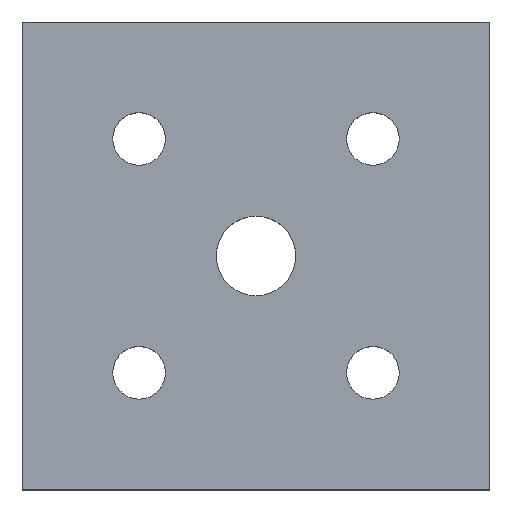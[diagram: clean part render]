
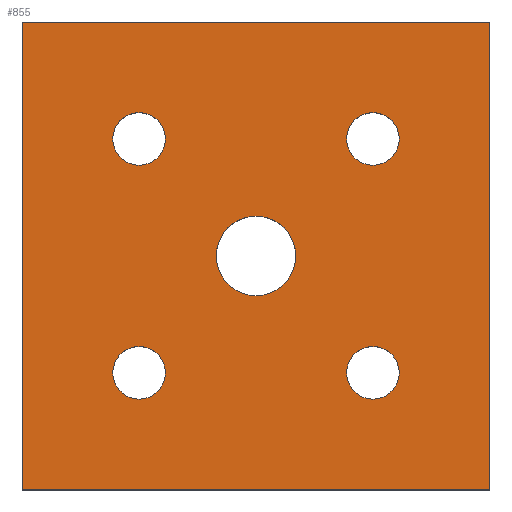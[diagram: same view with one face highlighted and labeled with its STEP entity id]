
A CAD part, top view. The second image highlights one B-rep face of the part: STEP entity #855.
In plain terms, the highlighted planar face has unit normal (0, 0, 1).
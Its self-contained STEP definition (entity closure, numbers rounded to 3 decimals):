
#2 = DIRECTION ( 'NONE',  ( 0., 0., -1. ) ) ;
#4 = FACE_BOUND ( 'NONE', #519, .T. ) ;
#5 = DIRECTION ( 'NONE',  ( 0., 0., -1. ) ) ;
#8 = EDGE_CURVE ( 'NONE', #434, #822, #483, .T. ) ;
#16 = ORIENTED_EDGE ( 'NONE', *, *, #652, .T. ) ;
#17 = CIRCLE ( 'NONE', #733, 2.25 ) ;
#18 = DIRECTION ( 'NONE',  ( 0., 0., -1. ) ) ;
#19 = ORIENTED_EDGE ( 'NONE', *, *, #573, .T. ) ;
#36 = DIRECTION ( 'NONE',  ( 0., 0., -1. ) ) ;
#37 = DIRECTION ( 'NONE',  ( 0., 0., -1. ) ) ;
#56 = AXIS2_PLACEMENT_3D ( 'NONE', #885, #18, #587 ) ;
#62 = ORIENTED_EDGE ( 'NONE', *, *, #160, .T. ) ;
#76 = CARTESIAN_POINT ( 'NONE',  ( -7.75, -10., 0. ) ) ;
#79 = CARTESIAN_POINT ( 'NONE',  ( 7.75, -10., 0. ) ) ;
#85 = FACE_BOUND ( 'NONE', #902, .T. ) ;
#88 = EDGE_LOOP ( 'NONE', ( #95, #19 ) ) ;
#95 = ORIENTED_EDGE ( 'NONE', *, *, #787, .T. ) ;
#103 = DIRECTION ( 'NONE',  ( -1., 0., 0. ) ) ;
#113 = AXIS2_PLACEMENT_3D ( 'NONE', #504, #788, #882 ) ;
#115 = VERTEX_POINT ( 'NONE', #123 ) ;
#119 = CARTESIAN_POINT ( 'NONE',  ( 20., 20., 0. ) ) ;
#123 = CARTESIAN_POINT ( 'NONE',  ( 7.75, 10., 0. ) ) ;
#127 = DIRECTION ( 'NONE',  ( 0., 0., -1. ) ) ;
#134 = AXIS2_PLACEMENT_3D ( 'NONE', #442, #2, #564 ) ;
#135 = VERTEX_POINT ( 'NONE', #334 ) ;
#139 = CARTESIAN_POINT ( 'NONE',  ( 0., 20., 0. ) ) ;
#151 = ORIENTED_EDGE ( 'NONE', *, *, #8, .T. ) ;
#157 = AXIS2_PLACEMENT_3D ( 'NONE', #779, #5, #297 ) ;
#160 = EDGE_CURVE ( 'NONE', #690, #515, #731, .T. ) ;
#165 = CIRCLE ( 'NONE', #688, 2.25 ) ;
#171 = EDGE_CURVE ( 'NONE', #601, #115, #17, .T. ) ;
#175 = AXIS2_PLACEMENT_3D ( 'NONE', #809, #317, #103 ) ;
#185 = EDGE_CURVE ( 'NONE', #653, #637, #301, .T. ) ;
#194 = CARTESIAN_POINT ( 'NONE',  ( -7.75, 10., 0. ) ) ;
#196 = CARTESIAN_POINT ( 'NONE',  ( 0., 0., 0. ) ) ;
#197 = FACE_BOUND ( 'NONE', #417, .T. ) ;
#203 = CARTESIAN_POINT ( 'NONE',  ( -20., 0., 0. ) ) ;
#205 = EDGE_CURVE ( 'NONE', #725, #840, #165, .T. ) ;
#206 = DIRECTION ( 'NONE',  ( -1., 0., 0. ) ) ;
#210 = CARTESIAN_POINT ( 'NONE',  ( 10., 10., 0. ) ) ;
#212 = LINE ( 'NONE', #824, #389 ) ;
#286 = VECTOR ( 'NONE', #354, 1000. ) ;
#292 = CIRCLE ( 'NONE', #113, 2.25 ) ;
#297 = DIRECTION ( 'NONE',  ( -1., 0., 0. ) ) ;
#301 = LINE ( 'NONE', #139, #286 ) ;
#314 = CIRCLE ( 'NONE', #134, 2.25 ) ;
#317 = DIRECTION ( 'NONE',  ( 0., 0., -1. ) ) ;
#318 = EDGE_CURVE ( 'NONE', #840, #725, #314, .T. ) ;
#323 = ORIENTED_EDGE ( 'NONE', *, *, #858, .T. ) ;
#328 = DIRECTION ( 'NONE',  ( 0., 1., 0. ) ) ;
#332 = CARTESIAN_POINT ( 'NONE',  ( 0., 0., 0. ) ) ;
#334 = CARTESIAN_POINT ( 'NONE',  ( 3.4, 0., 0. ) ) ;
#347 = CARTESIAN_POINT ( 'NONE',  ( -10., 10., 0. ) ) ;
#352 = VERTEX_POINT ( 'NONE', #79 ) ;
#354 = DIRECTION ( 'NONE',  ( -1., 0., 0. ) ) ;
#388 = PLANE ( 'NONE',  #756 ) ;
#389 = VECTOR ( 'NONE', #328, 1000. ) ;
#400 = CARTESIAN_POINT ( 'NONE',  ( -20., -20., 0. ) ) ;
#405 = DIRECTION ( 'NONE',  ( -1., 0., 0. ) ) ;
#415 = EDGE_CURVE ( 'NONE', #352, #740, #292, .T. ) ;
#417 = EDGE_LOOP ( 'NONE', ( #449, #431 ) ) ;
#423 = VECTOR ( 'NONE', #921, 1000. ) ;
#431 = ORIENTED_EDGE ( 'NONE', *, *, #171, .T. ) ;
#434 = VERTEX_POINT ( 'NONE', #658 ) ;
#442 = CARTESIAN_POINT ( 'NONE',  ( -10., 10., 0. ) ) ;
#444 = ORIENTED_EDGE ( 'NONE', *, *, #318, .T. ) ;
#448 = CIRCLE ( 'NONE', #869, 2.25 ) ;
#449 = ORIENTED_EDGE ( 'NONE', *, *, #490, .T. ) ;
#450 = CARTESIAN_POINT ( 'NONE',  ( -3.4, 0., 0. ) ) ;
#451 = EDGE_LOOP ( 'NONE', ( #151, #16 ) ) ;
#464 = FACE_BOUND ( 'NONE', #451, .T. ) ;
#468 = DIRECTION ( 'NONE',  ( -1., 0., 0. ) ) ;
#474 = ORIENTED_EDGE ( 'NONE', *, *, #638, .T. ) ;
#482 = ORIENTED_EDGE ( 'NONE', *, *, #205, .T. ) ;
#483 = CIRCLE ( 'NONE', #56, 2.25 ) ;
#486 = CIRCLE ( 'NONE', #157, 3.4 ) ;
#490 = EDGE_CURVE ( 'NONE', #115, #601, #917, .T. ) ;
#496 = VECTOR ( 'NONE', #752, 1000. ) ;
#504 = CARTESIAN_POINT ( 'NONE',  ( 10., -10., 0. ) ) ;
#515 = VERTEX_POINT ( 'NONE', #884 ) ;
#519 = EDGE_LOOP ( 'NONE', ( #444, #482 ) ) ;
#521 = FACE_BOUND ( 'NONE', #88, .T. ) ;
#531 = CIRCLE ( 'NONE', #909, 2.25 ) ;
#532 = CARTESIAN_POINT ( 'NONE',  ( -10., -10., 0. ) ) ;
#557 = FACE_OUTER_BOUND ( 'NONE', #699, .T. ) ;
#564 = DIRECTION ( 'NONE',  ( -1., 0., 0. ) ) ;
#570 = VERTEX_POINT ( 'NONE', #450 ) ;
#573 = EDGE_CURVE ( 'NONE', #135, #570, #642, .T. ) ;
#587 = DIRECTION ( 'NONE',  ( -1., 0., 0. ) ) ;
#595 = CARTESIAN_POINT ( 'NONE',  ( -20., 20., 0. ) ) ;
#596 = DIRECTION ( 'NONE',  ( -1., 0., 0. ) ) ;
#601 = VERTEX_POINT ( 'NONE', #644 ) ;
#617 = CARTESIAN_POINT ( 'NONE',  ( 12.25, -10., 0. ) ) ;
#618 = CARTESIAN_POINT ( 'NONE',  ( 0., -20., 0. ) ) ;
#620 = LINE ( 'NONE', #203, #423 ) ;
#624 = ORIENTED_EDGE ( 'NONE', *, *, #839, .T. ) ;
#634 = DIRECTION ( 'NONE',  ( 0., 0., 1. ) ) ;
#637 = VERTEX_POINT ( 'NONE', #595 ) ;
#638 = EDGE_CURVE ( 'NONE', #740, #352, #448, .T. ) ;
#642 = CIRCLE ( 'NONE', #879, 3.4 ) ;
#644 = CARTESIAN_POINT ( 'NONE',  ( 12.25, 10., 0. ) ) ;
#652 = EDGE_CURVE ( 'NONE', #822, #434, #531, .T. ) ;
#653 = VERTEX_POINT ( 'NONE', #119 ) ;
#658 = CARTESIAN_POINT ( 'NONE',  ( -12.25, -10., 0. ) ) ;
#675 = CARTESIAN_POINT ( 'NONE',  ( -12.25, 10., 0. ) ) ;
#688 = AXIS2_PLACEMENT_3D ( 'NONE', #347, #127, #206 ) ;
#689 = DIRECTION ( 'NONE',  ( -1., 0., 0. ) ) ;
#690 = VERTEX_POINT ( 'NONE', #400 ) ;
#699 = EDGE_LOOP ( 'NONE', ( #624, #741, #323, #62 ) ) ;
#725 = VERTEX_POINT ( 'NONE', #194 ) ;
#731 = LINE ( 'NONE', #618, #496 ) ;
#733 = AXIS2_PLACEMENT_3D ( 'NONE', #210, #911, #689 ) ;
#740 = VERTEX_POINT ( 'NONE', #617 ) ;
#741 = ORIENTED_EDGE ( 'NONE', *, *, #185, .T. ) ;
#742 = DIRECTION ( 'NONE',  ( 1., 0., 0. ) ) ;
#752 = DIRECTION ( 'NONE',  ( 1., 0., 0. ) ) ;
#756 = AXIS2_PLACEMENT_3D ( 'NONE', #196, #634, #742 ) ;
#779 = CARTESIAN_POINT ( 'NONE',  ( 0., 0., 0. ) ) ;
#787 = EDGE_CURVE ( 'NONE', #570, #135, #486, .T. ) ;
#788 = DIRECTION ( 'NONE',  ( 0., 0., -1. ) ) ;
#808 = ORIENTED_EDGE ( 'NONE', *, *, #415, .T. ) ;
#809 = CARTESIAN_POINT ( 'NONE',  ( 10., 10., 0. ) ) ;
#814 = CARTESIAN_POINT ( 'NONE',  ( 10., -10., 0. ) ) ;
#822 = VERTEX_POINT ( 'NONE', #76 ) ;
#824 = CARTESIAN_POINT ( 'NONE',  ( 20., 0., 0. ) ) ;
#839 = EDGE_CURVE ( 'NONE', #515, #653, #212, .T. ) ;
#840 = VERTEX_POINT ( 'NONE', #675 ) ;
#855 = ADVANCED_FACE ( 'NONE', ( #464, #4, #197, #85, #521, #557 ), #388, .T. ) ;
#858 = EDGE_CURVE ( 'NONE', #637, #690, #620, .T. ) ;
#869 = AXIS2_PLACEMENT_3D ( 'NONE', #814, #894, #405 ) ;
#879 = AXIS2_PLACEMENT_3D ( 'NONE', #332, #36, #468 ) ;
#882 = DIRECTION ( 'NONE',  ( -1., 0., 0. ) ) ;
#884 = CARTESIAN_POINT ( 'NONE',  ( 20., -20., 0. ) ) ;
#885 = CARTESIAN_POINT ( 'NONE',  ( -10., -10., 0. ) ) ;
#894 = DIRECTION ( 'NONE',  ( 0., 0., -1. ) ) ;
#902 = EDGE_LOOP ( 'NONE', ( #808, #474 ) ) ;
#909 = AXIS2_PLACEMENT_3D ( 'NONE', #532, #37, #596 ) ;
#911 = DIRECTION ( 'NONE',  ( 0., 0., -1. ) ) ;
#917 = CIRCLE ( 'NONE', #175, 2.25 ) ;
#921 = DIRECTION ( 'NONE',  ( 0., -1., 0. ) ) ;
